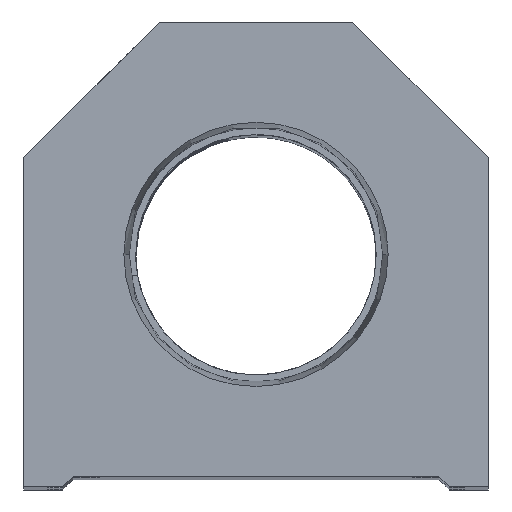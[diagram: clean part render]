
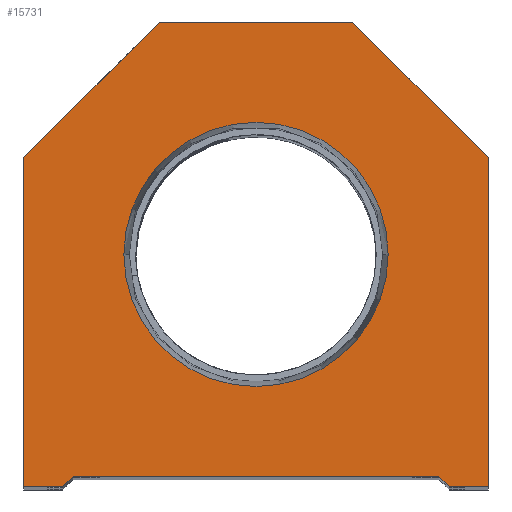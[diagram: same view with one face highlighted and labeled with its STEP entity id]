
A CAD part, top view. The second image highlights one B-rep face of the part: STEP entity #15731.
In plain terms, the highlighted planar face has unit normal (0, 0, 1).
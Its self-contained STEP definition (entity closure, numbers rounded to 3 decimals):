
#185 = LINE ( 'NONE', #6831, #2005 ) ;
#599 = VECTOR ( 'NONE', #1592, 1000. ) ;
#1085 = ORIENTED_EDGE ( 'NONE', *, *, #4263, .F. ) ;
#1165 = CARTESIAN_POINT ( 'NONE',  ( 17.5, 0., 0. ) ) ;
#1344 = DIRECTION ( 'NONE',  ( 1., 0., 0. ) ) ;
#1534 = ORIENTED_EDGE ( 'NONE', *, *, #8084, .T. ) ;
#1592 = DIRECTION ( 'NONE',  ( -0.707, 0.707, 0. ) ) ;
#1657 = PLANE ( 'NONE',  #2081 ) ;
#1682 = DIRECTION ( 'NONE',  ( 0., 1., 0. ) ) ;
#1988 = CIRCLE ( 'NONE', #8485, 12.647 ) ;
#2005 = VECTOR ( 'NONE', #1682, 1000. ) ;
#2081 = AXIS2_PLACEMENT_3D ( 'NONE', #16269, #4398, #16435 ) ;
#2198 = ORIENTED_EDGE ( 'NONE', *, *, #12998, .F. ) ;
#2253 = EDGE_CURVE ( 'NONE', #6398, #10320, #14322, .T. ) ;
#2464 = CARTESIAN_POINT ( 'NONE',  ( -17.5, 1., 0. ) ) ;
#2492 = LINE ( 'NONE', #1165, #15618 ) ;
#2543 = DIRECTION ( 'NONE',  ( 0.707, -0.707, 0. ) ) ;
#2969 = ORIENTED_EDGE ( 'NONE', *, *, #12622, .T. ) ;
#3281 = CARTESIAN_POINT ( 'NONE',  ( -12.647, 22.25, 0. ) ) ;
#3310 = VERTEX_POINT ( 'NONE', #7330 ) ;
#3731 = CARTESIAN_POINT ( 'NONE',  ( 0., 22.25, 0. ) ) ;
#3881 = DIRECTION ( 'NONE',  ( 1., 0., 0. ) ) ;
#3965 = LINE ( 'NONE', #14802, #10392 ) ;
#4188 = VERTEX_POINT ( 'NONE', #3281 ) ;
#4214 = ORIENTED_EDGE ( 'NONE', *, *, #14026, .T. ) ;
#4263 = EDGE_CURVE ( 'NONE', #3310, #4188, #17096, .T. ) ;
#4387 = VERTEX_POINT ( 'NONE', #9474 ) ;
#4398 = DIRECTION ( 'NONE',  ( 0., 0., 1. ) ) ;
#4825 = CARTESIAN_POINT ( 'NONE',  ( 17.5, 1., 0. ) ) ;
#4851 = VECTOR ( 'NONE', #13326, 1000. ) ;
#4962 = ORIENTED_EDGE ( 'NONE', *, *, #12339, .T. ) ;
#5758 = LINE ( 'NONE', #6744, #599 ) ;
#5992 = CARTESIAN_POINT ( 'NONE',  ( 22.25, 0., 0. ) ) ;
#6135 = DIRECTION ( 'NONE',  ( 0., 0., 1. ) ) ;
#6398 = VERTEX_POINT ( 'NONE', #9963 ) ;
#6443 = VERTEX_POINT ( 'NONE', #4825 ) ;
#6744 = CARTESIAN_POINT ( 'NONE',  ( 22.25, 31.5, 0. ) ) ;
#6831 = CARTESIAN_POINT ( 'NONE',  ( 22.25, 0., 0. ) ) ;
#6840 = VECTOR ( 'NONE', #2543, 1000. ) ;
#6923 = EDGE_LOOP ( 'NONE', ( #1534, #9417, #13798, #4962, #2969, #9834, #9478, #10354, #4214, #11300 ) ) ;
#7330 = CARTESIAN_POINT ( 'NONE',  ( 12.647, 22.25, 0. ) ) ;
#7450 = CARTESIAN_POINT ( 'NONE',  ( 0., 22.25, 0. ) ) ;
#7660 = VECTOR ( 'NONE', #3881, 1000. ) ;
#7854 = LINE ( 'NONE', #2464, #7660 ) ;
#7877 = DIRECTION ( 'NONE',  ( 1., 0., 0. ) ) ;
#8084 = EDGE_CURVE ( 'NONE', #4387, #6398, #3965, .T. ) ;
#8480 = DIRECTION ( 'NONE',  ( -1., 0., 0. ) ) ;
#8485 = AXIS2_PLACEMENT_3D ( 'NONE', #7450, #6135, #11547 ) ;
#8539 = VERTEX_POINT ( 'NONE', #13368 ) ;
#9352 = VECTOR ( 'NONE', #8480, 1000. ) ;
#9417 = ORIENTED_EDGE ( 'NONE', *, *, #2253, .T. ) ;
#9474 = CARTESIAN_POINT ( 'NONE',  ( -22.25, 0., 0. ) ) ;
#9478 = ORIENTED_EDGE ( 'NONE', *, *, #13568, .T. ) ;
#9743 = CARTESIAN_POINT ( 'NONE',  ( 9.25, 9.25, 0. ) ) ;
#9757 = CARTESIAN_POINT ( 'NONE',  ( -17.5, 1., 0. ) ) ;
#9834 = ORIENTED_EDGE ( 'NONE', *, *, #13546, .T. ) ;
#9963 = CARTESIAN_POINT ( 'NONE',  ( -18.5, 0., 0. ) ) ;
#9987 = CARTESIAN_POINT ( 'NONE',  ( 9.25, 44.5, 0. ) ) ;
#10320 = VERTEX_POINT ( 'NONE', #9757 ) ;
#10354 = ORIENTED_EDGE ( 'NONE', *, *, #12131, .T. ) ;
#10392 = VECTOR ( 'NONE', #11665, 1000. ) ;
#10696 = CARTESIAN_POINT ( 'NONE',  ( -22.25, 0., 0. ) ) ;
#10867 = CARTESIAN_POINT ( 'NONE',  ( 22.25, 31.5, 0. ) ) ;
#11139 = FACE_BOUND ( 'NONE', #13232, .T. ) ;
#11300 = ORIENTED_EDGE ( 'NONE', *, *, #14763, .T. ) ;
#11547 = DIRECTION ( 'NONE',  ( 1., 0., 0. ) ) ;
#11665 = DIRECTION ( 'NONE',  ( 1., 0., 0. ) ) ;
#11758 = DIRECTION ( 'NONE',  ( 0., -1., 0. ) ) ;
#11802 = DIRECTION ( 'NONE',  ( 0., 0., 1. ) ) ;
#12131 = EDGE_CURVE ( 'NONE', #8539, #12749, #12919, .T. ) ;
#12289 = FACE_OUTER_BOUND ( 'NONE', #6923, .T. ) ;
#12339 = EDGE_CURVE ( 'NONE', #6443, #13208, #14700, .T. ) ;
#12622 = EDGE_CURVE ( 'NONE', #13208, #15828, #2492, .T. ) ;
#12749 = VERTEX_POINT ( 'NONE', #14875 ) ;
#12876 = CARTESIAN_POINT ( 'NONE',  ( -9.25, 9.25, 0. ) ) ;
#12919 = LINE ( 'NONE', #9987, #9352 ) ;
#12998 = EDGE_CURVE ( 'NONE', #4188, #3310, #1988, .T. ) ;
#13083 = LINE ( 'NONE', #10696, #14827 ) ;
#13208 = VERTEX_POINT ( 'NONE', #13675 ) ;
#13232 = EDGE_LOOP ( 'NONE', ( #1085, #2198 ) ) ;
#13326 = DIRECTION ( 'NONE',  ( -0.707, -0.707, 0. ) ) ;
#13368 = CARTESIAN_POINT ( 'NONE',  ( 9.25, 44.5, 0. ) ) ;
#13546 = EDGE_CURVE ( 'NONE', #15828, #16014, #185, .T. ) ;
#13568 = EDGE_CURVE ( 'NONE', #16014, #8539, #5758, .T. ) ;
#13675 = CARTESIAN_POINT ( 'NONE',  ( 18.5, 0., 0. ) ) ;
#13755 = EDGE_CURVE ( 'NONE', #10320, #6443, #7854, .T. ) ;
#13798 = ORIENTED_EDGE ( 'NONE', *, *, #13755, .T. ) ;
#14026 = EDGE_CURVE ( 'NONE', #12749, #15333, #17187, .T. ) ;
#14149 = DIRECTION ( 'NONE',  ( 0.707, 0.707, 0. ) ) ;
#14322 = LINE ( 'NONE', #12876, #15551 ) ;
#14700 = LINE ( 'NONE', #9743, #6840 ) ;
#14763 = EDGE_CURVE ( 'NONE', #15333, #4387, #13083, .T. ) ;
#14802 = CARTESIAN_POINT ( 'NONE',  ( -17.5, 0., 0. ) ) ;
#14827 = VECTOR ( 'NONE', #11758, 1000. ) ;
#14875 = CARTESIAN_POINT ( 'NONE',  ( -9.25, 44.5, 0. ) ) ;
#15333 = VERTEX_POINT ( 'NONE', #15514 ) ;
#15514 = CARTESIAN_POINT ( 'NONE',  ( -22.25, 31.5, 0. ) ) ;
#15551 = VECTOR ( 'NONE', #14149, 1000. ) ;
#15618 = VECTOR ( 'NONE', #7877, 1000. ) ;
#15731 = ADVANCED_FACE ( 'NONE', ( #11139, #12289 ), #1657, .T. ) ;
#15828 = VERTEX_POINT ( 'NONE', #5992 ) ;
#15886 = CARTESIAN_POINT ( 'NONE',  ( -22.25, 31.5, 0. ) ) ;
#16014 = VERTEX_POINT ( 'NONE', #10867 ) ;
#16269 = CARTESIAN_POINT ( 'NONE',  ( 0., 0., 0. ) ) ;
#16435 = DIRECTION ( 'NONE',  ( 1., 0., 0. ) ) ;
#16780 = AXIS2_PLACEMENT_3D ( 'NONE', #3731, #11802, #1344 ) ;
#17096 = CIRCLE ( 'NONE', #16780, 12.647 ) ;
#17187 = LINE ( 'NONE', #15886, #4851 ) ;
